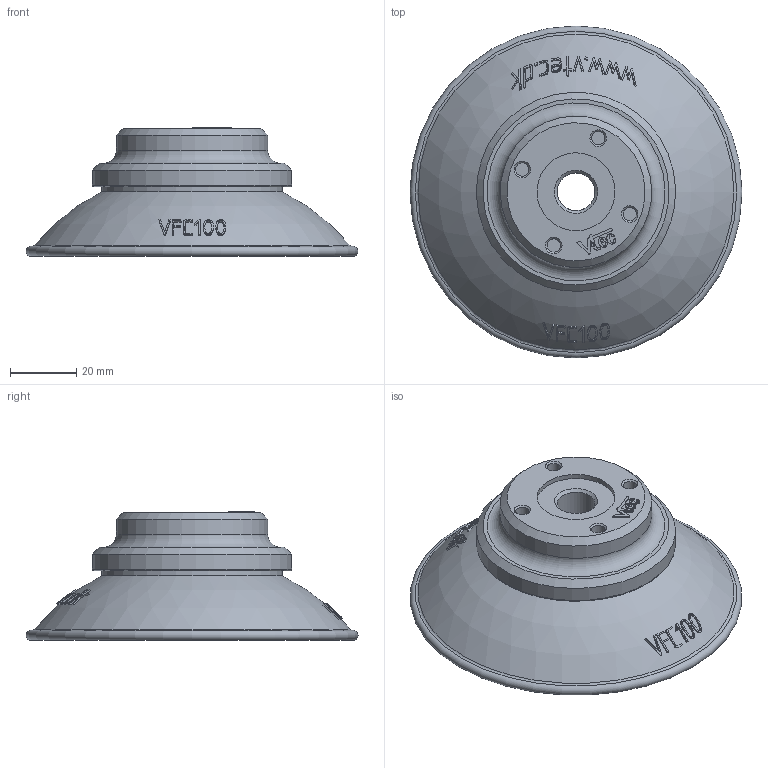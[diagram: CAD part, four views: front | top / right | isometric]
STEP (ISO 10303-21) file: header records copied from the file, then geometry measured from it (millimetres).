
FILE_DESCRIPTION( ( 'STEP AP203' ), '1' );
FILE_NAME( 'C:/Documents and Settings/Owner/官帕 拳搁/3D/Vacuum Pad/VFC series/VFC100-14F.stp', '2006-04-25T05:09:18', ( ' ' ), ( ' ' ), 'XStep 1.0', ' ', ' ' );
FILE_SCHEMA( ( 'CONFIG_CONTROL_DESIGN) ( )' ) );
Length unit declared in the file: metre
Products named in the file (3): Assem1; 1; 2
Bounding box: 100 x 100 x 38.8 mm (x, y, z)
Volume: 136065.2 mm3; surface area: 75638.3 mm2
Topology: 4 solids, 4 shells, 806 faces, 1956 edges, 1300 vertices
Faces by surface type: bspline 256, plane 218, cylinder 180, sphere 112, cone 22, torus 14, extrusion 4
Full cylindrical faces by diameter (mm): 0.791 x2, 4 x16, 6.7 x16, 11.4 x2, 15 x2, 20 x2, 23.5 x2, 45.6 x2, 50 x2, 54.5 x2, 55 x2, 60 x2
Entity records: 19363 total; most frequent: CARTESIAN_POINT 10761, ORIENTED_EDGE 1820, DIRECTION 1434, EDGE_CURVE 910, VERTEX_POINT 634, AXIS2_PLACEMENT_3D 578, EDGE_LOOP 546, FACE_OUTER_BOUND 443
